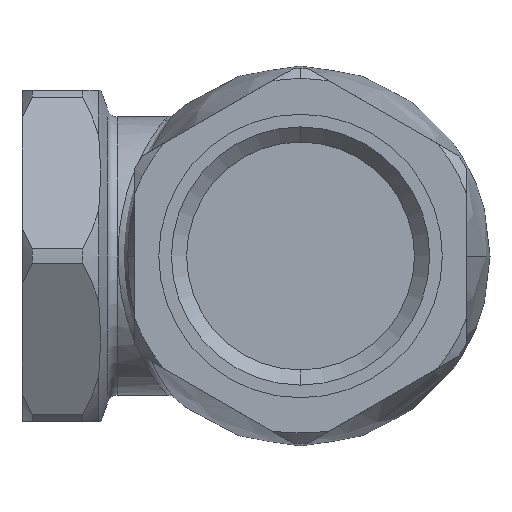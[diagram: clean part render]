
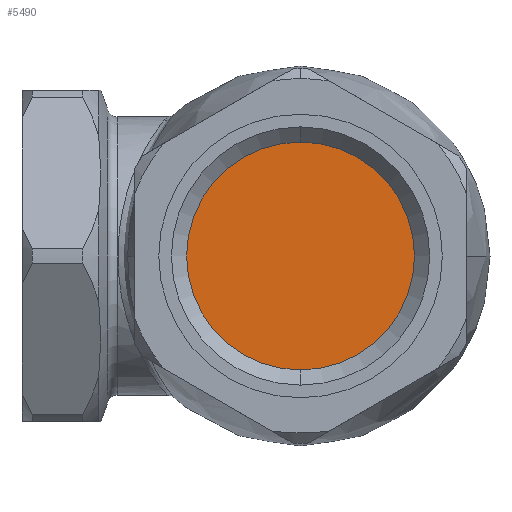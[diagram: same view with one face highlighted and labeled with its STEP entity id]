
A CAD part, front view. The second image highlights one B-rep face of the part: STEP entity #5490.
In plain terms, the highlighted planar face has unit normal (0, -1, 0).
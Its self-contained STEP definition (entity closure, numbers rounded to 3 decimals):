
#241 = VERTEX_POINT ( 'NONE', #10514 ) ;
#357 = DIRECTION ( 'NONE',  ( 0., 0., 1. ) ) ;
#554 = ORIENTED_EDGE ( 'NONE', *, *, #8574, .F. ) ;
#556 = ORIENTED_EDGE ( 'NONE', *, *, #5107, .F. ) ;
#1871 = CIRCLE ( 'NONE', #8985, 22.5 ) ;
#2375 = CARTESIAN_POINT ( 'NONE',  ( 0., -35., 0. ) ) ;
#3111 = DIRECTION ( 'NONE',  ( 0., 0., 1. ) ) ;
#4076 = DIRECTION ( 'NONE',  ( 0., 0., 1. ) ) ;
#4686 = CIRCLE ( 'NONE', #6763, 22.5 ) ;
#4851 = DIRECTION ( 'NONE',  ( 0., 1., 0. ) ) ;
#4887 = CARTESIAN_POINT ( 'NONE',  ( 0., -35., 0. ) ) ;
#5075 = VERTEX_POINT ( 'NONE', #9151 ) ;
#5107 = EDGE_CURVE ( 'NONE', #241, #5075, #4686, .T. ) ;
#5490 = ADVANCED_FACE ( 'NONE', ( #11381 ), #10494, .F. ) ;
#6010 = DIRECTION ( 'NONE',  ( 0., 1., 0. ) ) ;
#6047 = EDGE_LOOP ( 'NONE', ( #556, #554 ) ) ;
#6763 = AXIS2_PLACEMENT_3D ( 'NONE', #4887, #11152, #3111 ) ;
#6999 = CARTESIAN_POINT ( 'NONE',  ( 32.5, -35., 0. ) ) ;
#8574 = EDGE_CURVE ( 'NONE', #5075, #241, #1871, .T. ) ;
#8985 = AXIS2_PLACEMENT_3D ( 'NONE', #2375, #4851, #357 ) ;
#9151 = CARTESIAN_POINT ( 'NONE',  ( 0., -35., -22.5 ) ) ;
#10494 = PLANE ( 'NONE',  #10846 ) ;
#10514 = CARTESIAN_POINT ( 'NONE',  ( 0., -35., 22.5 ) ) ;
#10846 = AXIS2_PLACEMENT_3D ( 'NONE', #6999, #6010, #4076 ) ;
#11152 = DIRECTION ( 'NONE',  ( 0., 1., 0. ) ) ;
#11381 = FACE_OUTER_BOUND ( 'NONE', #6047, .T. ) ;
